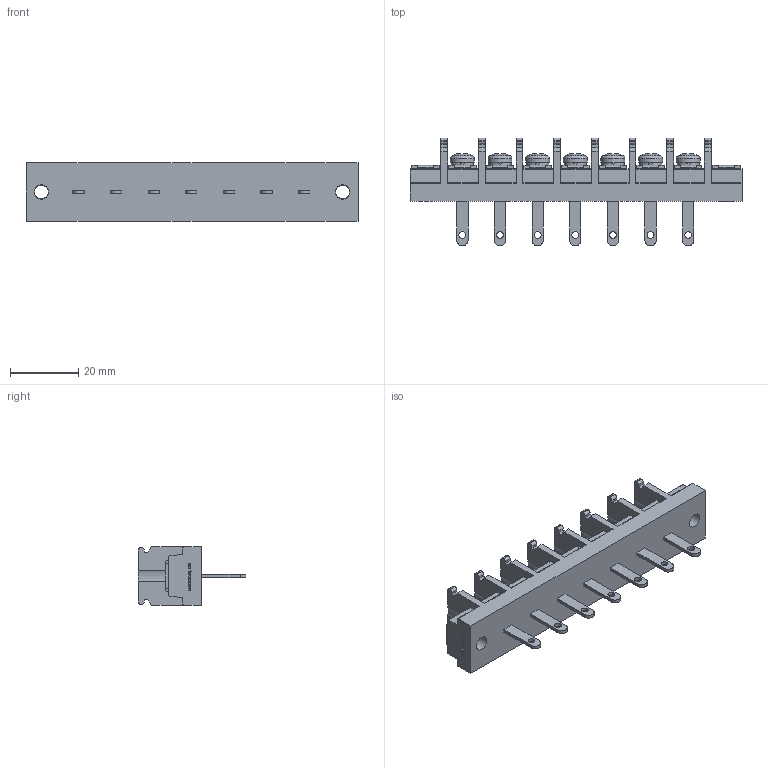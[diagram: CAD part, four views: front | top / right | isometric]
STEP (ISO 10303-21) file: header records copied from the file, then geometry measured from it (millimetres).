
FILE_DESCRIPTION(/* description */ ('Alibre Inc.'),/* implementation_level */ '2;1');
FILE_NAME(/* name */ 'export0',/* time_stamp */ '2015-10-19T19:16:07+09:00',/* author */ (''),/* organization */ (''),/* preprocessor_version */ 'ST-DEVELOPER v14',/* originating_system */ 'Alibre',/* authorisation */ '');
FILE_SCHEMA (('CONFIG_CONTROL_DESIGN'));
Length unit declared in the file: centimetre
Products named in the file (1): ID_1
Bounding box: 97 x 31.5 x 17 mm (x, y, z)
Volume: 17658 mm3; surface area: 10444.3 mm2
Topology: 1 solids, 1 shells, 976 faces, 2715 edges, 1806 vertices
Faces by surface type: plane 682, cylinder 141, bspline 104, cone 28, torus 14, sphere 7
Full cylindrical faces by diameter (mm): 2 x7, 4 x9, 4.2 x2, 6.5 x7, 7 x7
Entity records: 30246 total; most frequent: CARTESIAN_POINT 6534, ORIENTED_EDGE 5292, DIRECTION 3906, EDGE_CURVE 2646, VECTOR 1882, LINE 1882, VERTEX_POINT 1776, AXIS2_PLACEMENT_3D 1348
